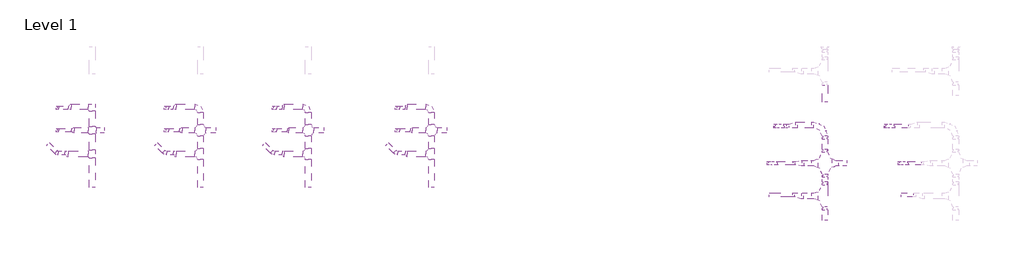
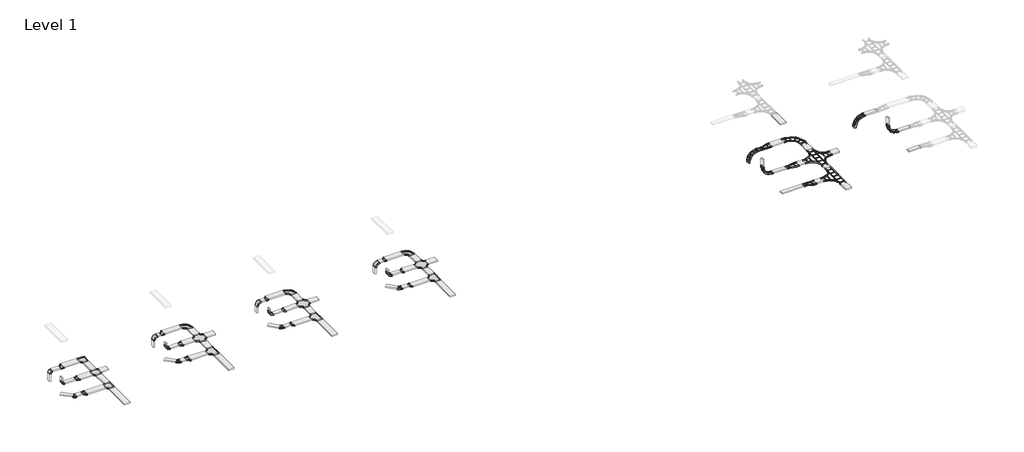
# One storey, part 1 of 9: 70 cable carrier segments, 46 cable carrier fittings.
"""IFC4 building model written with IfcOpenShell, lengths in millimetres."""

from ifc_helpers import new_model, si_unit, frame, origin, place, context, project, spatial, polyline, outline, extrude, transform, mapped, element, save
from components import cable_carrier_fitting_1_mm_805de479, cable_carrier_fitting_1_mm_529289f4, cable_carrier_fitting_1_mm_c1197fce, cable_carrier_fitting_1_mm_5924018d, cable_carrier_fitting_1_mm_d3f2b815, cable_carrier_fitting_1_mm_367de262, cable_carrier_fitting_1_mm_a7febe8f, cable_carrier_fitting_1_mm_fc54f34e, cable_carrier_fitting_1_mm_42b71fda, cable_carrier_fitting_1_mm_1f89d0ee, cable_carrier_fitting_1_mm_ffd8b238, cable_carrier_fitting_1_mm_e192c5dd, cable_carrier_fitting_1_mm_02684e42, cable_carrier_fitting_1_mm_cfe8fd75, cable_carrier_fitting_1_mm_447bc4b9, cable_carrier_fitting_1_mm_be7f07a0, cable_carrier_fitting_1_mm_44e0f4b3, cable_carrier_fitting_1_5_mm_cc8ef015, cable_carrier_fitting_1_5_mm_7721eeaa, cable_carrier_fitting_1_5_mm_3523910d, cable_carrier_fitting_1_5_mm_ccf48cd3, cable_carrier_fitting_1_5_mm_c053843e, cable_carrier_fitting_1_5_mm_0168b917, cable_carrier_fitting_1_5_mm_8b0a73e9, cable_carrier_fitting_1_5_mm_19f47176

model = new_model("IFC4")

# Units and contexts
model_context = context("Model", 3, world=origin())
ifc_project = project(units=[si_unit("LENGTHUNIT", "METRE", prefix="MILLI")], contexts=[model_context])

# Site, building, storey
site = spatial("IfcSite", under=ifc_project)
building = spatial("IfcBuilding", under=site)
storey = spatial("IfcBuildingStorey", under=building, Name="Level 1", Elevation=0.0)

# Cable carrier fittings
placement = place(None, origin())
cable_carrier_fitting_1_mm_shape = cable_carrier_fitting_1_mm_805de479(model_context)
element("IfcCableCarrierFitting", 1, ObjectType="BAKS_Redukcja E90 : 1 mm", at=placement, inside=storey, context=model_context, shape_type="MappedRepresentation", body=[
    mapped(cable_carrier_fitting_1_mm_shape, transform((-8942.5459295, -2637.2738582, 2750.0), x_axis=(1.0, 0.0, 0.0), y_axis=(0.0, 1.0, 0.0), z_axis=(0.0, 0.0, 1.0))),
])
element("IfcCableCarrierFitting", 2, ObjectType="BAKS_Redukcja E90 : 1 mm", at=placement, inside=storey, context=model_context, shape_type="MappedRepresentation", body=[
    mapped(cable_carrier_fitting_1_mm_shape, transform((-2542.5459295, -2637.2738582, 2750.0), x_axis=(1.0, 0.0, 0.0), y_axis=(0.0, 1.0, 0.0), z_axis=(0.0, 0.0, 1.0))),
])
cable_carrier_fitting_1_mm_2_shape = cable_carrier_fitting_1_mm_529289f4(model_context)
element("IfcCableCarrierFitting", 3, ObjectType="BAKS_Redukcja E90 : 1 mm", at=placement, inside=storey, context=model_context, shape_type="MappedRepresentation", body=[
    mapped(cable_carrier_fitting_1_mm_2_shape, transform((-9102.5459295, -1419.2826006, 2750.0), x_axis=(-1.0, 0.0, 0.0), y_axis=(0.0, -1.0, 0.0), z_axis=(0.0, 0.0, 1.0))),
])
element("IfcCableCarrierFitting", 4, ObjectType="BAKS_Redukcja E90 : 1 mm", at=placement, inside=storey, context=model_context, shape_type="MappedRepresentation", body=[
    mapped(cable_carrier_fitting_1_mm_2_shape, transform((-2702.5459295, -1419.2826006, 2750.0), x_axis=(-1.0, 0.0, 0.0), y_axis=(0.0, -1.0, 0.0), z_axis=(0.0, 0.0, 1.0))),
])
cable_carrier_fitting_1_mm_3_shape = cable_carrier_fitting_1_mm_c1197fce(model_context)
element("IfcCableCarrierFitting", 5, ObjectType="BAKS_Redukcja E90 : 1 mm", at=placement, inside=storey, context=model_context, shape_type="MappedRepresentation", body=[
    mapped(cable_carrier_fitting_1_mm_3_shape, transform((-9102.5459295, -3867.9062708, 2750.0), x_axis=(-1.0, 0.0, 0.0), y_axis=(0.0, -1.0, 0.0), z_axis=(0.0, 0.0, 1.0))),
])
element("IfcCableCarrierFitting", 6, ObjectType="BAKS_Redukcja E90 : 1 mm", at=placement, inside=storey, context=model_context, shape_type="MappedRepresentation", body=[
    mapped(cable_carrier_fitting_1_mm_3_shape, transform((-2702.5459295, -3867.9062708, 2750.0), x_axis=(-1.0, 0.0, 0.0), y_axis=(0.0, -1.0, 0.0), z_axis=(0.0, 0.0, 1.0))),
])
cable_carrier_fitting_1_mm_4_shape = cable_carrier_fitting_1_mm_5924018d(model_context)
element("IfcCableCarrierFitting", 7, ObjectType="BAKS_Trójnik_koryta uniwersalny : 1 mm", at=placement, inside=storey, context=model_context, shape_type="MappedRepresentation", body=[
    mapped(cable_carrier_fitting_1_mm_4_shape, transform((-19070.165863, -3867.9062708, 2750.0), x_axis=(0.0, -1.0, 0.0), y_axis=(1.0, 0.0, 0.0), z_axis=(0.0, 0.0, 1.0))),
])
cable_carrier_fitting_1_mm_5_shape = cable_carrier_fitting_1_mm_d3f2b815(model_context)
element("IfcCableCarrierFitting", 8, ObjectType="BAKS_Czwórnik_koryta uniwersalny : 1 mm", at=placement, inside=storey, context=model_context, shape_type="MappedRepresentation", body=[
    mapped(cable_carrier_fitting_1_mm_5_shape, transform((-19070.165863, -2637.2738582, 2750.0), x_axis=(0.0, 1.0, 0.0), y_axis=(-1.0, 0.0, 0.0), z_axis=(0.0, 0.0, 1.0))),
])
cable_carrier_fitting_1_mm_6_shape = cable_carrier_fitting_1_mm_367de262(model_context)
element("IfcCableCarrierFitting", 9, ObjectType="BAKS_Czwórnik_koryta KLIK (R140) : 1 mm", at=placement, inside=storey, context=model_context, shape_type="MappedRepresentation", body=[
    mapped(cable_carrier_fitting_1_mm_6_shape, transform((-13450.165863, -2637.2738582, 2750.0), x_axis=(0.0, 1.0, 0.0), y_axis=(-1.0, 0.0, 0.0), z_axis=(0.0, 0.0, 1.0))),
])
cable_carrier_fitting_1_mm_7_shape = cable_carrier_fitting_1_mm_a7febe8f(model_context)
element("IfcCableCarrierFitting", 10, ObjectType="BAKS_Trójnik_koryta KLIK (R140) : 1 mm", at=placement, inside=storey, context=model_context, shape_type="MappedRepresentation", body=[
    mapped(cable_carrier_fitting_1_mm_7_shape, transform((-13450.165863, -3867.9062708, 2750.0), x_axis=(0.0, -1.0, 0.0), y_axis=(1.0, 0.0, 0.0), z_axis=(0.0, 0.0, 1.0))),
])
cable_carrier_fitting_1_mm_8_shape = cable_carrier_fitting_1_mm_fc54f34e(model_context)
element("IfcCableCarrierFitting", 11, ObjectType="BAKS_Kolano_koryta_uniwerslane : 1 mm", at=placement, inside=storey, context=model_context, shape_type="MappedRepresentation", body=[
    mapped(cable_carrier_fitting_1_mm_8_shape, transform((-20910.165863, -3817.9062708, 2750.0), x_axis=(0.707106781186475, -0.7071067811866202, 0.0), y_axis=(0.7071067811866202, 0.707106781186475, 0.0), z_axis=(0.0, 0.0, 1.0))),
])
cable_carrier_fitting_1_mm_9_shape = cable_carrier_fitting_1_mm_42b71fda(model_context)
element("IfcCableCarrierFitting", 12, ObjectType="BAKS_Kolano_koryta_uniwerslane : 1 mm", at=placement, inside=storey, context=model_context, shape_type="MappedRepresentation", body=[
    mapped(cable_carrier_fitting_1_mm_9_shape, transform((-19070.165863, -1419.2826006, 2750.0), x_axis=(0.0, 1.0, 0.0), y_axis=(-1.0, 0.0, 0.0), z_axis=(0.0, 0.0, 1.0))),
])
cable_carrier_fitting_1_mm_10_shape = cable_carrier_fitting_1_mm_1f89d0ee(model_context)
element("IfcCableCarrierFitting", 13, ObjectType="BAKS_Kolano_koryta_KLIK (R140) : 1 mm", at=placement, inside=storey, context=model_context, shape_type="MappedRepresentation", body=[
    mapped(cable_carrier_fitting_1_mm_10_shape, transform((-15290.165863, -3817.9062708, 2750.0), x_axis=(0.7071067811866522, -0.707106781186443, 0.0), y_axis=(0.707106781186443, 0.7071067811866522, 0.0), z_axis=(0.0, 0.0, 1.0))),
])
cable_carrier_fitting_1_mm_11_shape = cable_carrier_fitting_1_mm_ffd8b238(model_context)
element("IfcCableCarrierFitting", 14, ObjectType="BAKS_Kolano_koryta_KLIK (R140) : 1 mm", at=placement, inside=storey, context=model_context, shape_type="MappedRepresentation", body=[
    mapped(cable_carrier_fitting_1_mm_11_shape, transform((-13450.165863, -1419.2826006, 2750.0), x_axis=(0.0, 1.0, 0.0), y_axis=(-1.0, 0.0, 0.0), z_axis=(0.0, 0.0, 1.0))),
])
cable_carrier_fitting_1_mm_12_shape = cable_carrier_fitting_1_mm_e192c5dd(model_context)
element("IfcCableCarrierFitting", 15, ObjectType="BAKS_Kolano_koryta E90 (R140) : 1 mm", at=placement, inside=storey, context=model_context, shape_type="MappedRepresentation", body=[
    mapped(cable_carrier_fitting_1_mm_12_shape, transform((-9682.5459295, -3817.9062708, 2750.0), x_axis=(0.7071067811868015, -0.7071067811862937, 0.0), y_axis=(0.7071067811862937, 0.7071067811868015, 0.0), z_axis=(0.0, 0.0, 1.0))),
])
element("IfcCableCarrierFitting", 16, ObjectType="BAKS_Kolano_koryta E90 (R140) : 1 mm", at=placement, inside=storey, context=model_context, shape_type="MappedRepresentation", body=[
    mapped(cable_carrier_fitting_1_mm_12_shape, transform((-3282.5459295, -3817.9062708, 2750.0), x_axis=(0.7071067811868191, -0.707106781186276, 0.0), y_axis=(0.707106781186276, 0.7071067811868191, 0.0), z_axis=(0.0, 0.0, 1.0))),
])
element("IfcCableCarrierFitting", 17, ObjectType="BAKS_Kolano_koryta E90 (R140) : 1 mm", at=placement, inside=storey, context=model_context, shape_type="MappedRepresentation", body=[
    mapped(cable_carrier_fitting_1_mm_11_shape, transform((-7842.5459295, -1419.2826006, 2750.0), x_axis=(0.0, 1.0, 0.0), y_axis=(-1.0, 0.0, 0.0), z_axis=(0.0, 0.0, 1.0))),
])
element("IfcCableCarrierFitting", 18, ObjectType="BAKS_Kolano_koryta E90 (R140) : 1 mm", at=placement, inside=storey, context=model_context, shape_type="MappedRepresentation", body=[
    mapped(cable_carrier_fitting_1_mm_11_shape, transform((-1442.5459295, -1419.2826006, 2750.0), x_axis=(0.0, 1.0, 0.0), y_axis=(-1.0, 0.0, 0.0), z_axis=(0.0, 0.0, 1.0))),
])
element("IfcCableCarrierFitting", 19, ObjectType="BAKS_Czwórnik_koryta E90 (R140) : 1 mm", at=placement, inside=storey, context=model_context, shape_type="MappedRepresentation", body=[
    mapped(cable_carrier_fitting_1_mm_6_shape, transform((-7842.5459295, -2637.2738582, 2750.0), x_axis=(0.0, 1.0, 0.0), y_axis=(-1.0, 0.0, 0.0), z_axis=(0.0, 0.0, 1.0))),
])
element("IfcCableCarrierFitting", 20, ObjectType="BAKS_Czwórnik_koryta E90 (R140) : 1 mm", at=placement, inside=storey, context=model_context, shape_type="MappedRepresentation", body=[
    mapped(cable_carrier_fitting_1_mm_6_shape, transform((-1442.5459295, -2637.2738582, 2750.0), x_axis=(0.0, 1.0, 0.0), y_axis=(-1.0, 0.0, 0.0), z_axis=(0.0, 0.0, 1.0))),
])
element("IfcCableCarrierFitting", 21, ObjectType="BAKS_Trójnik_koryta E90 (R140) : 1 mm", at=placement, inside=storey, context=model_context, shape_type="MappedRepresentation", body=[
    mapped(cable_carrier_fitting_1_mm_7_shape, transform((-7842.5459295, -3867.9062708, 2750.0), x_axis=(0.0, -1.0, 0.0), y_axis=(1.0, 0.0, 0.0), z_axis=(0.0, 0.0, 1.0))),
])
element("IfcCableCarrierFitting", 22, ObjectType="BAKS_Trójnik_koryta E90 (R140) : 1 mm", at=placement, inside=storey, context=model_context, shape_type="MappedRepresentation", body=[
    mapped(cable_carrier_fitting_1_mm_7_shape, transform((-1442.5459295, -3867.9062708, 2750.0), x_axis=(0.0, -1.0, 0.0), y_axis=(1.0, 0.0, 0.0), z_axis=(0.0, 0.0, 1.0))),
])
cable_carrier_fitting_1_mm_13_shape = cable_carrier_fitting_1_mm_02684e42(model_context)
element("IfcCableCarrierFitting", 23, ObjectType="BAKS_Łuk_koryta_pionowy E90 (R140)z : 1 mm", at=placement, inside=storey, context=model_context, shape_type="MappedRepresentation", body=[
    mapped(cable_carrier_fitting_1_mm_13_shape, transform((-9682.5459295, -1469.2826006, 2750.0), x_axis=(0.0, 0.0, 1.0), y_axis=(1.0, 0.0, 0.0), z_axis=(0.0, 1.0, 0.0))),
])
element("IfcCableCarrierFitting", 24, ObjectType="BAKS_Łuk_koryta_pionowy E90 (R140)z : 1 mm", at=placement, inside=storey, context=model_context, shape_type="MappedRepresentation", body=[
    mapped(cable_carrier_fitting_1_mm_13_shape, transform((-3282.5459295, -1469.2826006, 2750.0), x_axis=(0.0, 0.0, 1.0), y_axis=(1.0, 0.0, 0.0), z_axis=(0.0, 1.0, 0.0))),
])
element("IfcCableCarrierFitting", 25, ObjectType="BAKS_Łuk_koryta_pionowy E90 (R140)w : 1 mm", at=placement, inside=storey, context=model_context, shape_type="MappedRepresentation", body=[
    mapped(cable_carrier_fitting_1_mm_13_shape, transform((-9682.5459295, -2637.2738582, 2750.0), x_axis=(0.0, 0.0, -1.0), y_axis=(1.0, 0.0, 0.0), z_axis=(0.0, -1.0, 0.0))),
])
element("IfcCableCarrierFitting", 26, ObjectType="BAKS_Łuk_koryta_pionowy E90 (R140)w : 1 mm", at=placement, inside=storey, context=model_context, shape_type="MappedRepresentation", body=[
    mapped(cable_carrier_fitting_1_mm_13_shape, transform((-3282.5459295, -2637.2738582, 2750.0), x_axis=(0.0, 0.0, -1.0), y_axis=(1.0, 0.0, 0.0), z_axis=(0.0, -1.0, 0.0))),
])
cable_carrier_fitting_1_mm_14_shape = cable_carrier_fitting_1_mm_cfe8fd75(model_context)
element("IfcCableCarrierFitting", 27, ObjectType="BAKS_Łuk_koryta_pionowy (R50)z : 1 mm", at=placement, inside=storey, context=model_context, shape_type="MappedRepresentation", body=[
    mapped(cable_carrier_fitting_1_mm_14_shape, transform((-20910.165863, -1469.2826006, 2750.0), x_axis=(0.0, 0.0, 1.0), y_axis=(1.0, 0.0, 0.0), z_axis=(0.0, 1.0, 0.0))),
])
element("IfcCableCarrierFitting", 28, ObjectType="BAKS_Łuk_koryta_pionowy (R50)w : 1 mm", at=placement, inside=storey, context=model_context, shape_type="MappedRepresentation", body=[
    mapped(cable_carrier_fitting_1_mm_14_shape, transform((-20910.165863, -2637.2738582, 2750.0), x_axis=(0.0, 0.0, -1.0), y_axis=(1.0, 0.0, 0.0), z_axis=(0.0, -1.0, 0.0))),
])
cable_carrier_fitting_1_mm_15_shape = cable_carrier_fitting_1_mm_447bc4b9(model_context)
element("IfcCableCarrierFitting", 29, ObjectType="BAKS_Redukcja KLIK : 1 mm", at=placement, inside=storey, context=model_context, shape_type="MappedRepresentation", body=[
    mapped(cable_carrier_fitting_1_mm_15_shape, transform((-14550.165863, -2637.2738582, 2750.0), x_axis=(1.0, 0.0, 0.0), y_axis=(0.0, 1.0, 0.0), z_axis=(0.0, 0.0, 1.0))),
])
element("IfcCableCarrierFitting", 30, ObjectType="BAKS_Redukcja KLIK : 1 mm", at=placement, inside=storey, context=model_context, shape_type="MappedRepresentation", body=[
    mapped(cable_carrier_fitting_1_mm_15_shape, transform((-20170.165863, -2637.2738582, 2750.0), x_axis=(1.0, 0.0, 0.0), y_axis=(0.0, 1.0, 0.0), z_axis=(0.0, 0.0, 1.0))),
])
cable_carrier_fitting_1_mm_16_shape = cable_carrier_fitting_1_mm_be7f07a0(model_context)
element("IfcCableCarrierFitting", 31, ObjectType="BAKS_Redukcja KLIK : 1 mm", at=placement, inside=storey, context=model_context, shape_type="MappedRepresentation", body=[
    mapped(cable_carrier_fitting_1_mm_16_shape, transform((-14710.165863, -1419.2826006, 2750.0), x_axis=(-1.0, 0.0, 0.0), y_axis=(0.0, -1.0, 0.0), z_axis=(0.0, 0.0, 1.0))),
])
element("IfcCableCarrierFitting", 32, ObjectType="BAKS_Redukcja KLIK : 1 mm", at=placement, inside=storey, context=model_context, shape_type="MappedRepresentation", body=[
    mapped(cable_carrier_fitting_1_mm_16_shape, transform((-20170.165863, -1419.2826006, 2750.0), x_axis=(-1.0, 0.0, 0.0), y_axis=(0.0, -1.0, 0.0), z_axis=(0.0, 0.0, 1.0))),
])
cable_carrier_fitting_1_mm_17_shape = cable_carrier_fitting_1_mm_44e0f4b3(model_context)
element("IfcCableCarrierFitting", 33, ObjectType="BAKS_Redukcja KLIK : 1 mm", at=placement, inside=storey, context=model_context, shape_type="MappedRepresentation", body=[
    mapped(cable_carrier_fitting_1_mm_17_shape, transform((-14710.165863, -3867.9062708, 2750.0), x_axis=(-1.0, 0.0, 0.0), y_axis=(0.0, -1.0, 0.0), z_axis=(0.0, 0.0, 1.0))),
])
element("IfcCableCarrierFitting", 34, ObjectType="BAKS_Redukcja KLIK : 1 mm", at=placement, inside=storey, context=model_context, shape_type="MappedRepresentation", body=[
    mapped(cable_carrier_fitting_1_mm_17_shape, transform((-20330.165863, -3867.9062708, 2750.0), x_axis=(-1.0, 0.0, 0.0), y_axis=(0.0, -1.0, 0.0), z_axis=(0.0, 0.0, 1.0))),
])
element("IfcCableCarrierFitting", 35, ObjectType="BAKS_Łuk_koryta_pionowy (R140)z : 1 mm", at=placement, inside=storey, context=model_context, shape_type="MappedRepresentation", body=[
    mapped(cable_carrier_fitting_1_mm_13_shape, transform((-15290.165863, -1469.2826006, 2750.0), x_axis=(0.0, 0.0, 1.0), y_axis=(1.0, 0.0, 0.0), z_axis=(0.0, 1.0, 0.0))),
])
element("IfcCableCarrierFitting", 36, ObjectType="BAKS_Łuk_koryta_pionowy (R140)w : 1 mm", at=placement, inside=storey, context=model_context, shape_type="MappedRepresentation", body=[
    mapped(cable_carrier_fitting_1_mm_13_shape, transform((-15290.165863, -2637.2738582, 2750.0), x_axis=(0.0, 0.0, -1.0), y_axis=(1.0, 0.0, 0.0), z_axis=(0.0, -1.0, 0.0))),
])
cable_carrier_fitting_1_5_mm_shape = cable_carrier_fitting_1_5_mm_cc8ef015(model_context)
element("IfcCableCarrierFitting", 37, ObjectType="BAKS_Łuk_pionowy_drabiny_zew E90 : 1.5 mm", at=placement, inside=storey, context=model_context, shape_type="MappedRepresentation", body=[
    mapped(cable_carrier_fitting_1_5_mm_shape, transform((16391.1450634, -2413.4535, 2750.0), x_axis=(0.0, 0.0, 1.0), y_axis=(1.0, 0.0, 0.0), z_axis=(0.0, 1.0, 0.0))),
])
element("IfcCableCarrierFitting", 38, ObjectType="BAKS_Łuk_pionowy_drabiny_zew E90 : 1.5 mm", at=placement, inside=storey, context=model_context, shape_type="MappedRepresentation", body=[
    mapped(cable_carrier_fitting_1_5_mm_shape, transform((22136.055047, -2413.4535, 2750.0), x_axis=(0.0, 0.0, 1.0), y_axis=(1.0, 0.0, 0.0), z_axis=(0.0, 1.0, 0.0))),
])
cable_carrier_fitting_1_5_mm_2_shape = cable_carrier_fitting_1_5_mm_7721eeaa(model_context)
element("IfcCableCarrierFitting", 39, ObjectType="BAKS_Łuk_pionowy_drabiny_wew E90 : 1.5 mm", at=placement, inside=storey, context=model_context, shape_type="MappedRepresentation", body=[
    mapped(cable_carrier_fitting_1_5_mm_2_shape, transform((16041.055047, -4350.2319503, 2750.0), x_axis=(0.0, 0.0, -1.0), y_axis=(1.0, 0.0, 0.0), z_axis=(0.0, -1.0, 0.0))),
])
element("IfcCableCarrierFitting", 40, ObjectType="BAKS_Łuk_pionowy_drabiny_wew E90 : 1.5 mm", at=placement, inside=storey, context=model_context, shape_type="MappedRepresentation", body=[
    mapped(cable_carrier_fitting_1_5_mm_2_shape, transform((22841.055047, -4350.2319503, 2750.0), x_axis=(0.0, 0.0, -1.0), y_axis=(1.0, 0.0, 0.0), z_axis=(0.0, -1.0, 0.0))),
])
cable_carrier_fitting_1_5_mm_3_shape = cable_carrier_fitting_1_5_mm_3523910d(model_context)
element("IfcCableCarrierFitting", 41, ObjectType="BAKS_Łuk_drabiny E90 : 1.5 mm", at=placement, inside=storey, context=model_context, shape_type="MappedRepresentation", body=[
    mapped(cable_carrier_fitting_1_5_mm_3_shape, transform((19012.7309526, -2363.4535, 2750.0), x_axis=(0.0, 1.0, 0.0), y_axis=(-1.0, 0.0, 0.0), z_axis=(0.0, 0.0, 1.0))),
])
cable_carrier_fitting_1_5_mm_4_shape = cable_carrier_fitting_1_5_mm_ccf48cd3(model_context)
element("IfcCableCarrierFitting", 42, ObjectType="BAKS_Redukcja_drabiny E90 : 1.5 mm", at=placement, inside=storey, context=model_context, shape_type="MappedRepresentation", body=[
    mapped(cable_carrier_fitting_1_5_mm_4_shape, transform((17912.7309526, -6052.0771703, 2750.0), x_axis=(-1.0, 0.0, 0.0), y_axis=(0.0, -1.0, 0.0), z_axis=(0.0, 0.0, 1.0))),
])
cable_carrier_fitting_1_5_mm_5_shape = cable_carrier_fitting_1_5_mm_c053843e(model_context)
element("IfcCableCarrierFitting", 43, ObjectType="BAKS_Redukcja_drabiny E90 : 1.5 mm", at=placement, inside=storey, context=model_context, shape_type="MappedRepresentation", body=[
    mapped(cable_carrier_fitting_1_5_mm_5_shape, transform((17341.055047, -4350.2319503, 2750.0), x_axis=(1.0, 0.0, 0.0), y_axis=(0.0, 1.0, 0.0), z_axis=(0.0, 0.0, 1.0))),
])
cable_carrier_fitting_1_5_mm_6_shape = cable_carrier_fitting_1_5_mm_0168b917(model_context)
element("IfcCableCarrierFitting", 44, ObjectType="BAKS_Redukcja_drabiny E90 : 1.5 mm", at=placement, inside=storey, context=model_context, shape_type="MappedRepresentation", body=[
    mapped(cable_carrier_fitting_1_5_mm_6_shape, transform((17012.7309526, -2413.4535, 2750.0), x_axis=(1.0, 0.0, 0.0), y_axis=(0.0, 1.0, 0.0), z_axis=(0.0, 0.0, 1.0))),
])
cable_carrier_fitting_1_5_mm_7_shape = cable_carrier_fitting_1_5_mm_8b0a73e9(model_context)
element("IfcCableCarrierFitting", 45, ObjectType="BAKS_Trójnik_drabiny E90 : 1.5 mm", at=placement, inside=storey, context=model_context, shape_type="MappedRepresentation", body=[
    mapped(cable_carrier_fitting_1_5_mm_7_shape, transform((19012.7309526, -6052.0771703, 2750.0), x_axis=(0.0, -1.0, 0.0), y_axis=(1.0, 0.0, 0.0), z_axis=(0.0, 0.0, 1.0))),
])
cable_carrier_fitting_1_5_mm_8_shape = cable_carrier_fitting_1_5_mm_19f47176(model_context)
element("IfcCableCarrierFitting", 46, ObjectType="BAKS_Czwórnik_drabiny E90 : 1.5 mm", at=placement, inside=storey, context=model_context, shape_type="MappedRepresentation", body=[
    mapped(cable_carrier_fitting_1_5_mm_8_shape, transform((19012.7309526, -4350.2319503, 2750.0), x_axis=(0.0, 1.0, 0.0), y_axis=(-1.0, 0.0, 0.0), z_axis=(0.0, 0.0, 1.0))),
])

# Cable carrier segments
element("IfcCableCarrierSegment", 47, ObjectType="BAKS - koryto kablowe H60 KLIK (KFL) - promieniowe", at=placement, inside=storey, context=model_context, shape_type="SweptSolid", body=[
    extrude(outline(polyline([(-13300.165863, -3576.9062708), (-13600.165863, -3576.9062708), (-13600.165863, -2928.2738582), (-13300.165863, -2928.2738582), (-13300.165863, -3576.9062708)])), frame((0.0, 0.0, 2720.0), z_axis=(0.0, 0.0, 1.0), x_axis=(1.0, 0.0, 0.0)), (0.0, 0.0, 1.0), 60.0),
])
element("IfcCableCarrierSegment", 48, ObjectType="BAKS - koryto kablowe H60 KLIK (KFL) - promieniowe", at=placement, inside=storey, context=model_context, shape_type="SweptSolid", body=[
    extrude(outline(polyline([(-15260.165863, -1569.2826006), (-15320.165863, -1569.2826006), (-15320.165863, -1369.2826006), (-15260.165863, -1369.2826006), (-15260.165863, -1569.2826006)])), frame((0.0, 0.0, 2200.0), z_axis=(0.0, 0.0, 1.0), x_axis=(1.0, 0.0, 0.0)), (0.0, 0.0, 1.0), 355.0),
])
element("IfcCableCarrierSegment", 49, ObjectType="BAKS - koryto kablowe H60 KLIK (KFL) - promieniowe", at=placement, inside=storey, context=model_context, shape_type="SweptSolid", body=[
    extrude(outline(polyline([(-14870.165863, -1369.2826006), (-14870.165863, -1569.2826006), (-15095.165863, -1569.2826006), (-15095.165863, -1369.2826006), (-14870.165863, -1369.2826006)])), frame((0.0, 0.0, 2720.0), z_axis=(0.0, 0.0, 1.0), x_axis=(1.0, 0.0, 0.0)), (0.0, 0.0, 1.0), 60.0),
])
element("IfcCableCarrierSegment", 50, ObjectType="BAKS - koryto kablowe H60 KLIK (KFL) - promieniowe", at=placement, inside=storey, context=model_context, shape_type="SweptSolid", body=[
    extrude(outline(polyline([(-13300.165863, -5619.2826006), (-13600.165863, -5619.2826006), (-13600.165863, -4158.9062708), (-13300.165863, -4158.9062708), (-13300.165863, -5619.2826006)])), frame((0.0, 0.0, 2720.0), z_axis=(0.0, 0.0, 1.0), x_axis=(1.0, 0.0, 0.0)), (0.0, 0.0, 1.0), 60.0),
])
element("IfcCableCarrierSegment", 51, ObjectType="BAKS - koryto kablowe H60 KLIK (KFL) - promieniowe", at=placement, inside=storey, context=model_context, shape_type="SweptSolid", body=[
    extrude(outline(polyline([(-15320.165863, -2737.2738582), (-15320.165863, -2537.2738582), (-15260.165863, -2537.2738582), (-15260.165863, -2737.2738582), (-15320.165863, -2737.2738582)])), frame((0.0, 0.0, 2945.0), z_axis=(0.0, 0.0, 1.0), x_axis=(1.0, 0.0, 0.0)), (0.0, 0.0, 1.0), 155.0),
])
element("IfcCableCarrierSegment", 52, ObjectType="BAKS - koryto kablowe H60 KLIK (KFL) - promieniowe", at=placement, inside=storey, context=model_context, shape_type="SweptSolid", body=[
    extrude(outline(polyline([(-15095.165863, -2737.2738582), (-15095.165863, -2537.2738582), (-14550.165863, -2537.2738582), (-14550.165863, -2737.2738582), (-15095.165863, -2737.2738582)])), frame((0.0, 0.0, 2720.0), z_axis=(0.0, 0.0, 1.0), x_axis=(1.0, 0.0, 0.0)), (0.0, 0.0, 1.0), 60.0),
])
element("IfcCableCarrierSegment", 53, ObjectType="BAKS - koryto kablowe H60 KLIK (KFL) - promieniowe", at=placement, inside=storey, context=model_context, shape_type="SweptSolid", body=[
    extrude(outline(polyline([(-15827.5670167, -3421.9264733), (-15686.1456605, -3280.5051171), (-15290.4566642, -3676.1941134), (-15431.8780204, -3817.6154696), (-15827.5670167, -3421.9264733)])), frame((0.0, 0.0, 2720.0), z_axis=(0.0, 0.0, 1.0), x_axis=(1.0, 0.0, 0.0)), (0.0, 0.0, 1.0), 60.0),
])
element("IfcCableCarrierSegment", 54, ObjectType="BAKS - koryto kablowe H60 KLIK (KFL) - promieniowe", at=placement, inside=storey, context=model_context, shape_type="SweptSolid", body=[
    extrude(outline(polyline([(-14870.165863, -3717.9062708), (-14870.165863, -3917.9062708), (-15189.754608, -3917.9062708), (-15189.754608, -3717.9062708), (-14870.165863, -3717.9062708)])), frame((0.0, 0.0, 2720.0), z_axis=(0.0, 0.0, 1.0), x_axis=(1.0, 0.0, 0.0)), (0.0, 0.0, 1.0), 60.0),
])
element("IfcCableCarrierSegment", 55, ObjectType="BAKS - koryto kablowe H60 KLIK (KFL) - promieniowe", at=placement, inside=storey, context=model_context, shape_type="SweptSolid", body=[
    extrude(outline(polyline([(-12655.165863, -2487.2738582), (-12655.165863, -2787.2738582), (-13159.165863, -2787.2738582), (-13159.165863, -2487.2738582), (-12655.165863, -2487.2738582)])), frame((0.0, 0.0, 2720.0), z_axis=(0.0, 0.0, 1.0), x_axis=(1.0, 0.0, 0.0)), (0.0, 0.0, 1.0), 60.0),
])
element("IfcCableCarrierSegment", 56, ObjectType="BAKS - koryto kablowe H60 KLIK (KFL) - promieniowe", at=placement, inside=storey, context=model_context, shape_type="SweptSolid", body=[
    extrude(outline(polyline([(-13741.165863, -3717.9062708), (-13741.165863, -4017.9062708), (-14710.165863, -4017.9062708), (-14710.165863, -3717.9062708), (-13741.165863, -3717.9062708)])), frame((0.0, 0.0, 2720.0), z_axis=(0.0, 0.0, 1.0), x_axis=(1.0, 0.0, 0.0)), (0.0, 0.0, 1.0), 60.0),
])
element("IfcCableCarrierSegment", 57, ObjectType="BAKS - koryto kablowe H60 KLIK (KFL) - promieniowe", at=placement, inside=storey, context=model_context, shape_type="SweptSolid", body=[
    extrude(outline(polyline([(-14390.165863, -2787.2738582), (-14390.165863, -2487.2738582), (-13741.165863, -2487.2738582), (-13741.165863, -2787.2738582), (-14390.165863, -2787.2738582)])), frame((0.0, 0.0, 2720.0), z_axis=(0.0, 0.0, 1.0), x_axis=(1.0, 0.0, 0.0)), (0.0, 0.0, 1.0), 60.0),
])
element("IfcCableCarrierSegment", 58, ObjectType="BAKS - koryto kablowe H60 KLIK (KFL) - promieniowe", at=placement, inside=storey, context=model_context, shape_type="SweptSolid", body=[
    extrude(outline(polyline([(-13300.165863, -2346.2738582), (-13600.165863, -2346.2738582), (-13600.165863, -1710.2826006), (-13300.165863, -1710.2826006), (-13300.165863, -2346.2738582)])), frame((0.0, 0.0, 2720.0), z_axis=(0.0, 0.0, 1.0), x_axis=(1.0, 0.0, 0.0)), (0.0, 0.0, 1.0), 60.0),
])
element("IfcCableCarrierSegment", 59, ObjectType="BAKS - koryto kablowe H60 KLIK (KFL) - promieniowe", at=placement, inside=storey, context=model_context, shape_type="SweptSolid", body=[
    extrude(outline(polyline([(-13741.165863, -1269.2826006), (-13741.165863, -1569.2826006), (-14710.165863, -1569.2826006), (-14710.165863, -1269.2826006), (-13741.165863, -1269.2826006)])), frame((0.0, 0.0, 2720.0), z_axis=(0.0, 0.0, 1.0), x_axis=(1.0, 0.0, 0.0)), (0.0, 0.0, 1.0), 60.0),
])
element("IfcCableCarrierSegment", 60, ObjectType="BAKS - koryto kablowe H60 KLIK (KFL) - ostre", at=placement, inside=storey, context=model_context, shape_type="SweptSolid", body=[
    extrude(outline(polyline([(-18920.165863, -3662.9062708), (-19220.165863, -3662.9062708), (-19220.165863, -2842.2738582), (-18920.165863, -2842.2738582), (-18920.165863, -3662.9062708)])), frame((0.0, 0.0, 2720.0), z_axis=(0.0, 0.0, 1.0), x_axis=(1.0, 0.0, 0.0)), (0.0, 0.0, 1.0), 60.0),
])
element("IfcCableCarrierSegment", 61, ObjectType="BAKS - koryto kablowe H60 KLIK (KFL) - ostre", at=placement, inside=storey, context=model_context, shape_type="SweptSolid", body=[
    extrude(outline(polyline([(-20880.165863, -1569.2826006), (-20940.165863, -1569.2826006), (-20940.165863, -1369.2826006), (-20880.165863, -1369.2826006), (-20880.165863, -1569.2826006)])), frame((0.0, 0.0, 2200.0), z_axis=(0.0, 0.0, 1.0), x_axis=(1.0, 0.0, 0.0)), (0.0, 0.0, 1.0), 445.0),
])
element("IfcCableCarrierSegment", 62, ObjectType="BAKS - koryto kablowe H60 KLIK (KFL) - ostre", at=placement, inside=storey, context=model_context, shape_type="SweptSolid", body=[
    extrude(outline(polyline([(-20330.165863, -1369.2826006), (-20330.165863, -1569.2826006), (-20805.165863, -1569.2826006), (-20805.165863, -1369.2826006), (-20330.165863, -1369.2826006)])), frame((0.0, 0.0, 2720.0), z_axis=(0.0, 0.0, 1.0), x_axis=(1.0, 0.0, 0.0)), (0.0, 0.0, 1.0), 60.0),
])
element("IfcCableCarrierSegment", 63, ObjectType="BAKS - koryto kablowe H60 KLIK (KFL) - ostre", at=placement, inside=storey, context=model_context, shape_type="SweptSolid", body=[
    extrude(outline(polyline([(-18920.165863, -5619.2826006), (-19220.165863, -5619.2826006), (-19220.165863, -4072.9062708), (-18920.165863, -4072.9062708), (-18920.165863, -5619.2826006)])), frame((0.0, 0.0, 2720.0), z_axis=(0.0, 0.0, 1.0), x_axis=(1.0, 0.0, 0.0)), (0.0, 0.0, 1.0), 60.0),
])
element("IfcCableCarrierSegment", 64, ObjectType="BAKS - koryto kablowe H60 KLIK (KFL) - ostre", at=placement, inside=storey, context=model_context, shape_type="SweptSolid", body=[
    extrude(outline(polyline([(-20940.165863, -2737.2738582), (-20940.165863, -2537.2738582), (-20880.165863, -2537.2738582), (-20880.165863, -2737.2738582), (-20940.165863, -2737.2738582)])), frame((0.0, 0.0, 2855.0), z_axis=(0.0, 0.0, 1.0), x_axis=(1.0, 0.0, 0.0)), (0.0, 0.0, 1.0), 245.0),
])
element("IfcCableCarrierSegment", 65, ObjectType="BAKS - koryto kablowe H60 KLIK (KFL) - ostre", at=placement, inside=storey, context=model_context, shape_type="SweptSolid", body=[
    extrude(outline(polyline([(-20805.165863, -2737.2738582), (-20805.165863, -2537.2738582), (-20170.165863, -2537.2738582), (-20170.165863, -2737.2738582), (-20805.165863, -2737.2738582)])), frame((0.0, 0.0, 2720.0), z_axis=(0.0, 0.0, 1.0), x_axis=(1.0, 0.0, 0.0)), (0.0, 0.0, 1.0), 60.0),
])
element("IfcCableCarrierSegment", 66, ObjectType="BAKS - koryto kablowe H60 KLIK (KFL) - ostre", at=placement, inside=storey, context=model_context, shape_type="SweptSolid", body=[
    extrude(outline(polyline([(-21447.5670167, -3421.9264733), (-21306.1456605, -3280.5051171), (-20885.5607406, -3701.090037), (-21026.9820968, -3842.5113932), (-21447.5670167, -3421.9264733)])), frame((0.0, 0.0, 2720.0), z_axis=(0.0, 0.0, 1.0), x_axis=(1.0, 0.0, 0.0)), (0.0, 0.0, 1.0), 60.0),
])
element("IfcCableCarrierSegment", 67, ObjectType="BAKS - koryto kablowe H60 KLIK (KFL) - ostre", at=placement, inside=storey, context=model_context, shape_type="SweptSolid", body=[
    extrude(outline(polyline([(-20490.165863, -3717.9062708), (-20490.165863, -3917.9062708), (-20844.9627608, -3917.9062708), (-20844.9627608, -3717.9062708), (-20490.165863, -3717.9062708)])), frame((0.0, 0.0, 2720.0), z_axis=(0.0, 0.0, 1.0), x_axis=(1.0, 0.0, 0.0)), (0.0, 0.0, 1.0), 60.0),
])
element("IfcCableCarrierSegment", 68, ObjectType="BAKS - koryto kablowe H60 KLIK (KFL) - ostre", at=placement, inside=storey, context=model_context, shape_type="SweptSolid", body=[
    extrude(outline(polyline([(-18447.665863, -2487.2738582), (-18447.665863, -2787.2738582), (-18865.165863, -2787.2738582), (-18865.165863, -2487.2738582), (-18447.665863, -2487.2738582)])), frame((0.0, 0.0, 2720.0), z_axis=(0.0, 0.0, 1.0), x_axis=(1.0, 0.0, 0.0)), (0.0, 0.0, 1.0), 60.0),
])
element("IfcCableCarrierSegment", 69, ObjectType="BAKS - koryto kablowe H60 KLIK (KFL) - ostre", at=placement, inside=storey, context=model_context, shape_type="SweptSolid", body=[
    extrude(outline(polyline([(-19275.165863, -3717.9062708), (-19275.165863, -4017.9062708), (-20330.165863, -4017.9062708), (-20330.165863, -3717.9062708), (-19275.165863, -3717.9062708)])), frame((0.0, 0.0, 2720.0), z_axis=(0.0, 0.0, 1.0), x_axis=(1.0, 0.0, 0.0)), (0.0, 0.0, 1.0), 60.0),
])
element("IfcCableCarrierSegment", 70, ObjectType="BAKS - koryto kablowe H60 KLIK (KFL) - ostre", at=placement, inside=storey, context=model_context, shape_type="SweptSolid", body=[
    extrude(outline(polyline([(-20010.165863, -2787.2738582), (-20010.165863, -2487.2738582), (-19275.165863, -2487.2738582), (-19275.165863, -2787.2738582), (-20010.165863, -2787.2738582)])), frame((0.0, 0.0, 2720.0), z_axis=(0.0, 0.0, 1.0), x_axis=(1.0, 0.0, 0.0)), (0.0, 0.0, 1.0), 60.0),
])
element("IfcCableCarrierSegment", 71, ObjectType="BAKS - koryto kablowe H60 KLIK (KFL) - ostre", at=placement, inside=storey, context=model_context, shape_type="SweptSolid", body=[
    extrude(outline(polyline([(-18920.165863, -2432.2738582), (-19220.165863, -2432.2738582), (-19220.165863, -1625.2826006), (-18920.165863, -1625.2826006), (-18920.165863, -2432.2738582)])), frame((0.0, 0.0, 2720.0), z_axis=(0.0, 0.0, 1.0), x_axis=(1.0, 0.0, 0.0)), (0.0, 0.0, 1.0), 60.0),
])
element("IfcCableCarrierSegment", 72, ObjectType="BAKS - koryto kablowe H60 KLIK (KFL) - ostre", at=placement, inside=storey, context=model_context, shape_type="SweptSolid", body=[
    extrude(outline(polyline([(-19276.165863, -1269.2826006), (-19276.165863, -1569.2826006), (-20170.165863, -1569.2826006), (-20170.165863, -1269.2826006), (-19276.165863, -1269.2826006)])), frame((0.0, 0.0, 2720.0), z_axis=(0.0, 0.0, 1.0), x_axis=(1.0, 0.0, 0.0)), (0.0, 0.0, 1.0), 60.0),
])
element("IfcCableCarrierSegment", 73, ObjectType="BAKS - koryto kablowe E90 (KGJ) - promieniowe", at=placement, inside=storey, context=model_context, shape_type="SweptSolid", body=[
    extrude(outline(polyline([(-7692.5459295, -3576.9062708), (-7992.5459295, -3576.9062708), (-7992.5459295, -2928.2738582), (-7692.5459295, -2928.2738582), (-7692.5459295, -3576.9062708)])), frame((0.0, 0.0, 2720.0), z_axis=(0.0, 0.0, 1.0), x_axis=(1.0, 0.0, 0.0)), (0.0, 0.0, 1.0), 60.0),
])
element("IfcCableCarrierSegment", 74, ObjectType="BAKS - koryto kablowe E90 (KGJ) - promieniowe", at=placement, inside=storey, context=model_context, shape_type="SweptSolid", body=[
    extrude(outline(polyline([(-9652.5459295, -1569.2826006), (-9712.5459295, -1569.2826006), (-9712.5459295, -1369.2826006), (-9652.5459295, -1369.2826006), (-9652.5459295, -1569.2826006)])), frame((0.0, 0.0, 2200.0), z_axis=(0.0, 0.0, 1.0), x_axis=(1.0, 0.0, 0.0)), (0.0, 0.0, 1.0), 355.0),
])
element("IfcCableCarrierSegment", 75, ObjectType="BAKS - koryto kablowe E90 (KGJ) - promieniowe", at=placement, inside=storey, context=model_context, shape_type="SweptSolid", body=[
    extrude(outline(polyline([(-9197.5459295, -1369.2826006), (-9197.5459295, -1569.2826006), (-9487.5459295, -1569.2826006), (-9487.5459295, -1369.2826006), (-9197.5459295, -1369.2826006)])), frame((0.0, 0.0, 2720.0), z_axis=(0.0, 0.0, 1.0), x_axis=(1.0, 0.0, 0.0)), (0.0, 0.0, 1.0), 60.0),
])
element("IfcCableCarrierSegment", 76, ObjectType="BAKS - koryto kablowe E90 (KGJ) - promieniowe", at=placement, inside=storey, context=model_context, shape_type="SweptSolid", body=[
    extrude(outline(polyline([(-7692.5459295, -5619.2826006), (-7992.5459295, -5619.2826006), (-7992.5459295, -4158.9062708), (-7692.5459295, -4158.9062708), (-7692.5459295, -5619.2826006)])), frame((0.0, 0.0, 2720.0), z_axis=(0.0, 0.0, 1.0), x_axis=(1.0, 0.0, 0.0)), (0.0, 0.0, 1.0), 60.0),
])
element("IfcCableCarrierSegment", 77, ObjectType="BAKS - koryto kablowe E90 (KGJ) - promieniowe", at=placement, inside=storey, context=model_context, shape_type="SweptSolid", body=[
    extrude(outline(polyline([(-9712.5459295, -2737.2738582), (-9712.5459295, -2537.2738582), (-9652.5459295, -2537.2738582), (-9652.5459295, -2737.2738582), (-9712.5459295, -2737.2738582)])), frame((0.0, 0.0, 2945.0), z_axis=(0.0, 0.0, 1.0), x_axis=(1.0, 0.0, 0.0)), (0.0, 0.0, 1.0), 155.0),
])
element("IfcCableCarrierSegment", 78, ObjectType="BAKS - koryto kablowe E90 (KGJ) - promieniowe", at=placement, inside=storey, context=model_context, shape_type="SweptSolid", body=[
    extrude(outline(polyline([(-9487.5459295, -2737.2738582), (-9487.5459295, -2537.2738582), (-8942.5459295, -2537.2738582), (-8942.5459295, -2737.2738582), (-9487.5459295, -2737.2738582)])), frame((0.0, 0.0, 2720.0), z_axis=(0.0, 0.0, 1.0), x_axis=(1.0, 0.0, 0.0)), (0.0, 0.0, 1.0), 60.0),
])
element("IfcCableCarrierSegment", 79, ObjectType="BAKS - koryto kablowe E90 (KGJ) - promieniowe", at=placement, inside=storey, context=model_context, shape_type="SweptSolid", body=[
    extrude(outline(polyline([(-10219.9470832, -3421.9264733), (-10078.525727, -3280.5051171), (-9682.8367307, -3676.1941134), (-9824.2580869, -3817.6154696), (-10219.9470832, -3421.9264733)])), frame((0.0, 0.0, 2720.0), z_axis=(0.0, 0.0, 1.0), x_axis=(1.0, 0.0, 0.0)), (0.0, 0.0, 1.0), 60.0),
])
element("IfcCableCarrierSegment", 80, ObjectType="BAKS - koryto kablowe E90 (KGJ) - promieniowe", at=placement, inside=storey, context=model_context, shape_type="SweptSolid", body=[
    extrude(outline(polyline([(-9197.5459295, -3717.9062708), (-9197.5459295, -3917.9062708), (-9582.1346746, -3917.9062708), (-9582.1346746, -3717.9062708), (-9197.5459295, -3717.9062708)])), frame((0.0, 0.0, 2720.0), z_axis=(0.0, 0.0, 1.0), x_axis=(1.0, 0.0, 0.0)), (0.0, 0.0, 1.0), 60.0),
])
element("IfcCableCarrierSegment", 81, ObjectType="BAKS - koryto kablowe E90 (KGJ) - promieniowe", at=placement, inside=storey, context=model_context, shape_type="SweptSolid", body=[
    extrude(outline(polyline([(-7047.5459295, -2487.2738582), (-7047.5459295, -2787.2738582), (-7551.5459295, -2787.2738582), (-7551.5459295, -2487.2738582), (-7047.5459295, -2487.2738582)])), frame((0.0, 0.0, 2720.0), z_axis=(0.0, 0.0, 1.0), x_axis=(1.0, 0.0, 0.0)), (0.0, 0.0, 1.0), 60.0),
])
element("IfcCableCarrierSegment", 82, ObjectType="BAKS - koryto kablowe E90 (KGJ) - promieniowe", at=placement, inside=storey, context=model_context, shape_type="SweptSolid", body=[
    extrude(outline(polyline([(-8133.5459295, -3717.9062708), (-8133.5459295, -4017.9062708), (-9102.5459295, -4017.9062708), (-9102.5459295, -3717.9062708), (-8133.5459295, -3717.9062708)])), frame((0.0, 0.0, 2720.0), z_axis=(0.0, 0.0, 1.0), x_axis=(1.0, 0.0, 0.0)), (0.0, 0.0, 1.0), 60.0),
])
element("IfcCableCarrierSegment", 83, ObjectType="BAKS - koryto kablowe E90 (KGJ) - promieniowe", at=placement, inside=storey, context=model_context, shape_type="SweptSolid", body=[
    extrude(outline(polyline([(-8847.5459295, -2787.2738582), (-8847.5459295, -2487.2738582), (-8133.5459295, -2487.2738582), (-8133.5459295, -2787.2738582), (-8847.5459295, -2787.2738582)])), frame((0.0, 0.0, 2720.0), z_axis=(0.0, 0.0, 1.0), x_axis=(1.0, 0.0, 0.0)), (0.0, 0.0, 1.0), 60.0),
])
element("IfcCableCarrierSegment", 84, ObjectType="BAKS - koryto kablowe E90 (KGJ) - promieniowe", at=placement, inside=storey, context=model_context, shape_type="SweptSolid", body=[
    extrude(outline(polyline([(-7692.5459295, -2346.2738582), (-7992.5459295, -2346.2738582), (-7992.5459295, -1710.2826006), (-7692.5459295, -1710.2826006), (-7692.5459295, -2346.2738582)])), frame((0.0, 0.0, 2720.0), z_axis=(0.0, 0.0, 1.0), x_axis=(1.0, 0.0, 0.0)), (0.0, 0.0, 1.0), 60.0),
])
element("IfcCableCarrierSegment", 85, ObjectType="BAKS - koryto kablowe E90 (KGJ) - promieniowe", at=placement, inside=storey, context=model_context, shape_type="SweptSolid", body=[
    extrude(outline(polyline([(-8133.5459295, -1269.2826006), (-8133.5459295, -1569.2826006), (-9102.5459295, -1569.2826006), (-9102.5459295, -1269.2826006), (-8133.5459295, -1269.2826006)])), frame((0.0, 0.0, 2720.0), z_axis=(0.0, 0.0, 1.0), x_axis=(1.0, 0.0, 0.0)), (0.0, 0.0, 1.0), 60.0),
])
element("IfcCableCarrierSegment", 86, ObjectType="BAKS - koryto kablowe E90 (KGL) - promieniowe", at=placement, inside=storey, context=model_context, shape_type="SweptSolid", body=[
    extrude(outline(polyline([(-1292.5459295, -3576.9062708), (-1592.5459295, -3576.9062708), (-1592.5459295, -2928.2738582), (-1292.5459295, -2928.2738582), (-1292.5459295, -3576.9062708)])), frame((0.0, 0.0, 2720.0), z_axis=(0.0, 0.0, 1.0), x_axis=(1.0, 0.0, 0.0)), (0.0, 0.0, 1.0), 60.0),
])
element("IfcCableCarrierSegment", 87, ObjectType="BAKS - koryto kablowe E90 (KGL) - promieniowe", at=placement, inside=storey, context=model_context, shape_type="SweptSolid", body=[
    extrude(outline(polyline([(-3252.5459295, -1569.2826006), (-3312.5459295, -1569.2826006), (-3312.5459295, -1369.2826006), (-3252.5459295, -1369.2826006), (-3252.5459295, -1569.2826006)])), frame((0.0, 0.0, 2200.0), z_axis=(0.0, 0.0, 1.0), x_axis=(1.0, 0.0, 0.0)), (0.0, 0.0, 1.0), 355.0),
])
element("IfcCableCarrierSegment", 88, ObjectType="BAKS - koryto kablowe E90 (KGL) - promieniowe", at=placement, inside=storey, context=model_context, shape_type="SweptSolid", body=[
    extrude(outline(polyline([(-2797.5459295, -1369.2826006), (-2797.5459295, -1569.2826006), (-3087.5459295, -1569.2826006), (-3087.5459295, -1369.2826006), (-2797.5459295, -1369.2826006)])), frame((0.0, 0.0, 2720.0), z_axis=(0.0, 0.0, 1.0), x_axis=(1.0, 0.0, 0.0)), (0.0, 0.0, 1.0), 60.0),
])
element("IfcCableCarrierSegment", 89, ObjectType="BAKS - koryto kablowe E90 (KGL) - promieniowe", at=placement, inside=storey, context=model_context, shape_type="SweptSolid", body=[
    extrude(outline(polyline([(-1292.5459295, -5619.2826006), (-1592.5459295, -5619.2826006), (-1592.5459295, -4158.9062708), (-1292.5459295, -4158.9062708), (-1292.5459295, -5619.2826006)])), frame((0.0, 0.0, 2720.0), z_axis=(0.0, 0.0, 1.0), x_axis=(1.0, 0.0, 0.0)), (0.0, 0.0, 1.0), 60.0),
])
element("IfcCableCarrierSegment", 90, ObjectType="BAKS - koryto kablowe E90 (KGL) - promieniowe", at=placement, inside=storey, context=model_context, shape_type="SweptSolid", body=[
    extrude(outline(polyline([(-3312.5459295, -2737.2738582), (-3312.5459295, -2537.2738582), (-3252.5459295, -2537.2738582), (-3252.5459295, -2737.2738582), (-3312.5459295, -2737.2738582)])), frame((0.0, 0.0, 2945.0), z_axis=(0.0, 0.0, 1.0), x_axis=(1.0, 0.0, 0.0)), (0.0, 0.0, 1.0), 155.0),
])
element("IfcCableCarrierSegment", 91, ObjectType="BAKS - koryto kablowe E90 (KGL) - promieniowe", at=placement, inside=storey, context=model_context, shape_type="SweptSolid", body=[
    extrude(outline(polyline([(-3087.5459295, -2737.2738582), (-3087.5459295, -2537.2738582), (-2542.5459295, -2537.2738582), (-2542.5459295, -2737.2738582), (-3087.5459295, -2737.2738582)])), frame((0.0, 0.0, 2720.0), z_axis=(0.0, 0.0, 1.0), x_axis=(1.0, 0.0, 0.0)), (0.0, 0.0, 1.0), 60.0),
])
element("IfcCableCarrierSegment", 92, ObjectType="BAKS - koryto kablowe E90 (KGL) - promieniowe", at=placement, inside=storey, context=model_context, shape_type="SweptSolid", body=[
    extrude(outline(polyline([(-3819.9470832, -3421.9264733), (-3678.525727, -3280.5051171), (-3282.8367307, -3676.1941134), (-3424.2580869, -3817.6154696), (-3819.9470832, -3421.9264733)])), frame((0.0, 0.0, 2720.0), z_axis=(0.0, 0.0, 1.0), x_axis=(1.0, 0.0, 0.0)), (0.0, 0.0, 1.0), 60.0),
])
element("IfcCableCarrierSegment", 93, ObjectType="BAKS - koryto kablowe E90 (KGL) - promieniowe", at=placement, inside=storey, context=model_context, shape_type="SweptSolid", body=[
    extrude(outline(polyline([(-2797.5459295, -3717.9062708), (-2797.5459295, -3917.9062708), (-3182.1346746, -3917.9062708), (-3182.1346746, -3717.9062708), (-2797.5459295, -3717.9062708)])), frame((0.0, 0.0, 2720.0), z_axis=(0.0, 0.0, 1.0), x_axis=(1.0, 0.0, 0.0)), (0.0, 0.0, 1.0), 60.0),
])
element("IfcCableCarrierSegment", 94, ObjectType="BAKS - koryto kablowe E90 (KGL) - promieniowe", at=placement, inside=storey, context=model_context, shape_type="SweptSolid", body=[
    extrude(outline(polyline([(-647.5459295, -2487.2738582), (-647.5459295, -2787.2738582), (-1151.5459295, -2787.2738582), (-1151.5459295, -2487.2738582), (-647.5459295, -2487.2738582)])), frame((0.0, 0.0, 2720.0), z_axis=(0.0, 0.0, 1.0), x_axis=(1.0, 0.0, 0.0)), (0.0, 0.0, 1.0), 60.0),
])
element("IfcCableCarrierSegment", 95, ObjectType="BAKS - koryto kablowe E90 (KGL) - promieniowe", at=placement, inside=storey, context=model_context, shape_type="SweptSolid", body=[
    extrude(outline(polyline([(-1733.5459295, -3717.9062708), (-1733.5459295, -4017.9062708), (-2702.5459295, -4017.9062708), (-2702.5459295, -3717.9062708), (-1733.5459295, -3717.9062708)])), frame((0.0, 0.0, 2720.0), z_axis=(0.0, 0.0, 1.0), x_axis=(1.0, 0.0, 0.0)), (0.0, 0.0, 1.0), 60.0),
])
element("IfcCableCarrierSegment", 96, ObjectType="BAKS - koryto kablowe E90 (KGL) - promieniowe", at=placement, inside=storey, context=model_context, shape_type="SweptSolid", body=[
    extrude(outline(polyline([(-2447.5459295, -2787.2738582), (-2447.5459295, -2487.2738582), (-1733.5459295, -2487.2738582), (-1733.5459295, -2787.2738582), (-2447.5459295, -2787.2738582)])), frame((0.0, 0.0, 2720.0), z_axis=(0.0, 0.0, 1.0), x_axis=(1.0, 0.0, 0.0)), (0.0, 0.0, 1.0), 60.0),
])
element("IfcCableCarrierSegment", 97, ObjectType="BAKS - koryto kablowe E90 (KGL) - promieniowe", at=placement, inside=storey, context=model_context, shape_type="SweptSolid", body=[
    extrude(outline(polyline([(-1292.5459295, -2346.2738582), (-1592.5459295, -2346.2738582), (-1592.5459295, -1710.2826006), (-1292.5459295, -1710.2826006), (-1292.5459295, -2346.2738582)])), frame((0.0, 0.0, 2720.0), z_axis=(0.0, 0.0, 1.0), x_axis=(1.0, 0.0, 0.0)), (0.0, 0.0, 1.0), 60.0),
])
element("IfcCableCarrierSegment", 98, ObjectType="BAKS - koryto kablowe E90 (KGL) - promieniowe", at=placement, inside=storey, context=model_context, shape_type="SweptSolid", body=[
    extrude(outline(polyline([(-1733.5459295, -1269.2826006), (-1733.5459295, -1569.2826006), (-2702.5459295, -1569.2826006), (-2702.5459295, -1269.2826006), (-1733.5459295, -1269.2826006)])), frame((0.0, 0.0, 2720.0), z_axis=(0.0, 0.0, 1.0), x_axis=(1.0, 0.0, 0.0)), (0.0, 0.0, 1.0), 60.0),
])
element("IfcCableCarrierSegment", 99, ObjectType="BAKS - drabina kablowa E90 (DGOD)", at=placement, inside=storey, context=model_context, shape_type="SweptSolid", body=[
    extrude(outline(polyline([(19162.7309526, -1172.0771703), (18862.7309526, -1172.0771703), (18862.7309526, -272.0771703), (19162.7309526, -272.0771703), (19162.7309526, -1172.0771703)])), frame((0.0, 0.0, 2720.0), z_axis=(0.0, 0.0, 1.0), x_axis=(1.0, 0.0, 0.0)), (0.0, 0.0, 1.0), 60.0),
])
element("IfcCableCarrierSegment", 100, ObjectType="BAKS - drabina kablowa E90 (DUD)", at=placement, inside=storey, context=model_context, shape_type="SweptSolid", body=[
    extrude(outline(polyline([(19162.7309526, -5332.0771703), (18862.7309526, -5332.0771703), (18862.7309526, -5070.2319503), (19162.7309526, -5070.2319503), (19162.7309526, -5332.0771703)])), frame((0.0, 0.0, 2720.0), z_axis=(0.0, 0.0, 1.0), x_axis=(1.0, 0.0, 0.0)), (0.0, 0.0, 1.0), 60.0),
])
element("IfcCableCarrierSegment", 101, ObjectType="BAKS - drabina kablowa E90 (DUD)", at=placement, inside=storey, context=model_context, shape_type="SweptSolid", body=[
    extrude(outline(polyline([(16421.1450634, -2513.4535), (16361.1450634, -2513.4535), (16361.1450634, -2313.4535), (16421.1450634, -2313.4535), (16421.1450634, -2513.4535)])), frame((0.0, 0.0, 2200.0), z_axis=(0.0, 0.0, 1.0), x_axis=(1.0, 0.0, 0.0)), (0.0, 0.0, 1.0), 20.0),
])
element("IfcCableCarrierSegment", 102, ObjectType="BAKS - drabina kablowa E90 (DUD)", at=placement, inside=storey, context=model_context, shape_type="SweptSolid", body=[
    extrude(outline(polyline([(17012.7309526, -2313.4535), (17012.7309526, -2513.4535), (16921.1450634, -2513.4535), (16921.1450634, -2313.4535), (17012.7309526, -2313.4535)])), frame((0.0, 0.0, 2720.0), z_axis=(0.0, 0.0, 1.0), x_axis=(1.0, 0.0, 0.0)), (0.0, 0.0, 1.0), 60.0),
])
element("IfcCableCarrierSegment", 103, ObjectType="BAKS - drabina kablowa E90 (DUD)", at=placement, inside=storey, context=model_context, shape_type="SweptSolid", body=[
    extrude(outline(polyline([(19162.7309526, -7323.4535), (18862.7309526, -7323.4535), (18862.7309526, -6772.0771703), (19162.7309526, -6772.0771703), (19162.7309526, -7323.4535)])), frame((0.0, 0.0, 2720.0), z_axis=(0.0, 0.0, 1.0), x_axis=(1.0, 0.0, 0.0)), (0.0, 0.0, 1.0), 60.0),
])
element("IfcCableCarrierSegment", 104, ObjectType="BAKS - drabina kablowa E90 (DUD)", at=placement, inside=storey, context=model_context, shape_type="SweptSolid", body=[
    extrude(outline(polyline([(20141.055047, -4200.2319503), (20141.055047, -4500.2319503), (19732.7309526, -4500.2319503), (19732.7309526, -4200.2319503), (20141.055047, -4200.2319503)])), frame((0.0, 0.0, 2720.0), z_axis=(0.0, 0.0, 1.0), x_axis=(1.0, 0.0, 0.0)), (0.0, 0.0, 1.0), 60.0),
])
element("IfcCableCarrierSegment", 105, ObjectType="BAKS - drabina kablowa E90 (DUD)", at=placement, inside=storey, context=model_context, shape_type="SweptSolid", body=[
    extrude(outline(polyline([(16011.055047, -4450.2319503), (16011.055047, -4250.2319503), (16071.055047, -4250.2319503), (16071.055047, -4450.2319503), (16011.055047, -4450.2319503)])), frame((0.0, 0.0, 3280.0), z_axis=(0.0, 0.0, 1.0), x_axis=(1.0, 0.0, 0.0)), (0.0, 0.0, 1.0), 420.0),
])
element("IfcCableCarrierSegment", 106, ObjectType="BAKS - drabina kablowa E90 (DUD)", at=placement, inside=storey, context=model_context, shape_type="SweptSolid", body=[
    extrude(outline(polyline([(16571.055047, -4450.2319503), (16571.055047, -4250.2319503), (17341.055047, -4250.2319503), (17341.055047, -4450.2319503), (16571.055047, -4450.2319503)])), frame((0.0, 0.0, 2720.0), z_axis=(0.0, 0.0, 1.0), x_axis=(1.0, 0.0, 0.0)), (0.0, 0.0, 1.0), 60.0),
])
element("IfcCableCarrierSegment", 107, ObjectType="BAKS - drabina kablowa E90 (DUD)", at=placement, inside=storey, context=model_context, shape_type="SweptSolid", body=[
    extrude(outline(polyline([(17312.7309526, -5902.0771703), (17312.7309526, -6102.0771703), (16112.7309526, -6102.0771703), (16112.7309526, -5902.0771703), (17312.7309526, -5902.0771703)])), frame((0.0, 0.0, 2720.0), z_axis=(0.0, 0.0, 1.0), x_axis=(1.0, 0.0, 0.0)), (0.0, 0.0, 1.0), 60.0),
])
element("IfcCableCarrierSegment", 108, ObjectType="BAKS - drabina kablowa E90 (DUD)", at=placement, inside=storey, context=model_context, shape_type="SweptSolid", body=[
    extrude(outline(polyline([(18292.7309526, -5902.0771703), (18292.7309526, -6202.0771703), (17912.7309526, -6202.0771703), (17912.7309526, -5902.0771703), (18292.7309526, -5902.0771703)])), frame((0.0, 0.0, 2720.0), z_axis=(0.0, 0.0, 1.0), x_axis=(1.0, 0.0, 0.0)), (0.0, 0.0, 1.0), 60.0),
])
element("IfcCableCarrierSegment", 109, ObjectType="BAKS - drabina kablowa E90 (DUD)", at=placement, inside=storey, context=model_context, shape_type="SweptSolid", body=[
    extrude(outline(polyline([(17941.055047, -4500.2319503), (17941.055047, -4200.2319503), (18292.7309526, -4200.2319503), (18292.7309526, -4500.2319503), (17941.055047, -4500.2319503)])), frame((0.0, 0.0, 2720.0), z_axis=(0.0, 0.0, 1.0), x_axis=(1.0, 0.0, 0.0)), (0.0, 0.0, 1.0), 60.0),
])
element("IfcCableCarrierSegment", 110, ObjectType="BAKS - drabina kablowa E90 (DUD)", at=placement, inside=storey, context=model_context, shape_type="SweptSolid", body=[
    extrude(outline(polyline([(19162.7309526, -3630.2319503), (18862.7309526, -3630.2319503), (18862.7309526, -3083.4535), (19162.7309526, -3083.4535), (19162.7309526, -3630.2319503)])), frame((0.0, 0.0, 2720.0), z_axis=(0.0, 0.0, 1.0), x_axis=(1.0, 0.0, 0.0)), (0.0, 0.0, 1.0), 60.0),
])
element("IfcCableCarrierSegment", 111, ObjectType="BAKS - drabina kablowa E90 (DUD)", at=placement, inside=storey, context=model_context, shape_type="SweptSolid", body=[
    extrude(outline(polyline([(18292.7309526, -2213.4535), (18292.7309526, -2513.4535), (17612.7309526, -2513.4535), (17612.7309526, -2213.4535), (18292.7309526, -2213.4535)])), frame((0.0, 0.0, 2720.0), z_axis=(0.0, 0.0, 1.0), x_axis=(1.0, 0.0, 0.0)), (0.0, 0.0, 1.0), 60.0),
])
element("IfcCableCarrierSegment", 112, ObjectType="BAKS - drabina kablowa E90 (DUP)", at=placement, inside=storey, context=model_context, shape_type="SweptSolid", body=[
    extrude(outline(polyline([(22166.055047, -2513.4535), (22106.055047, -2513.4535), (22106.055047, -2313.4535), (22166.055047, -2313.4535), (22166.055047, -2513.4535)])), frame((0.0, 0.0, 2200.0), z_axis=(0.0, 0.0, 1.0), x_axis=(1.0, 0.0, 0.0)), (0.0, 0.0, 1.0), 20.0),
])
element("IfcCableCarrierSegment", 113, ObjectType="BAKS - drabina kablowa E90 (DUP)", at=placement, inside=storey, context=model_context, shape_type="SweptSolid", body=[
    extrude(outline(polyline([(22666.055047, -2513.4535), (22666.055047, -2313.4535), (23346.1450634, -2313.4535), (23346.1450634, -2513.4535), (22666.055047, -2513.4535)])), frame((0.0, 0.0, 2720.0), z_axis=(0.0, 0.0, 1.0), x_axis=(1.0, 0.0, 0.0)), (0.0, 0.0, 1.0), 60.0),
])
element("IfcCableCarrierSegment", 114, ObjectType="BAKS - drabina kablowa E90 (DUP)", at=placement, inside=storey, context=model_context, shape_type="SweptSolid", body=[
    extrude(outline(polyline([(22811.055047, -4450.2319503), (22811.055047, -4250.2319503), (22871.055047, -4250.2319503), (22871.055047, -4450.2319503), (22811.055047, -4450.2319503)])), frame((0.0, 0.0, 3280.0), z_axis=(0.0, 0.0, 1.0), x_axis=(1.0, 0.0, 0.0)), (0.0, 0.0, 1.0), 420.0),
])
element("IfcCableCarrierSegment", 115, ObjectType="BAKS - drabina kablowa E90 (DUP)", at=placement, inside=storey, context=model_context, shape_type="SweptSolid", body=[
    extrude(outline(polyline([(24021.055047, -4250.2319503), (24021.055047, -4450.2319503), (23371.055047, -4450.2319503), (23371.055047, -4250.2319503), (24021.055047, -4250.2319503)])), frame((0.0, 0.0, 2720.0), z_axis=(0.0, 0.0, 1.0), x_axis=(1.0, 0.0, 0.0)), (0.0, 0.0, 1.0), 60.0),
])
element("IfcCableCarrierSegment", 116, ObjectType="BAKS - drabina kablowa E90 (DUP)", at=placement, inside=storey, context=model_context, shape_type="SweptSolid", body=[
    extrude(outline(polyline([(23612.7309526, -5902.0771703), (23612.7309526, -6102.0771703), (22972.7309526, -6102.0771703), (22972.7309526, -5902.0771703), (23612.7309526, -5902.0771703)])), frame((0.0, 0.0, 2720.0), z_axis=(0.0, 0.0, 1.0), x_axis=(1.0, 0.0, 0.0)), (0.0, 0.0, 1.0), 60.0),
])

save(model, "model.ifc")
